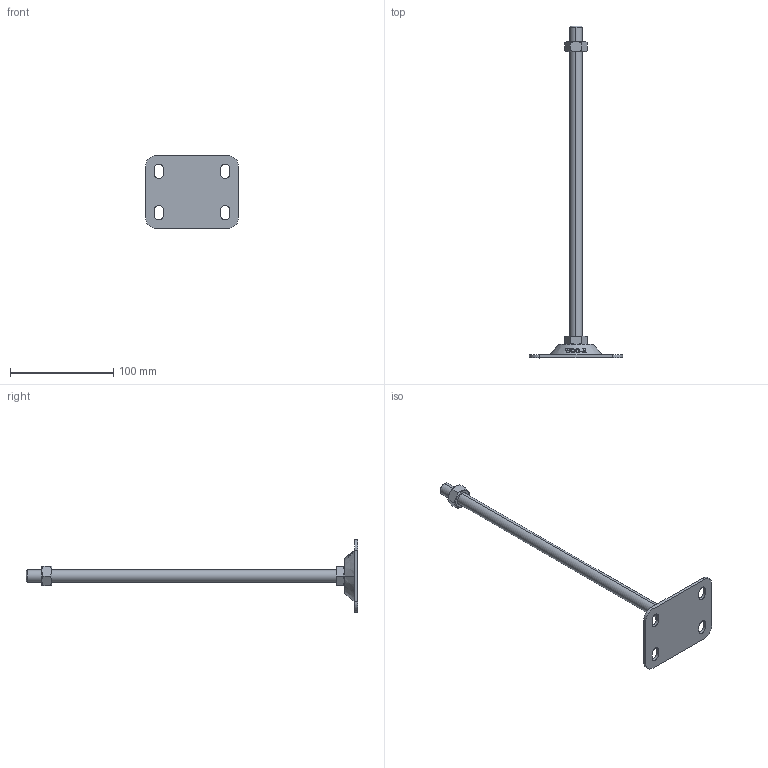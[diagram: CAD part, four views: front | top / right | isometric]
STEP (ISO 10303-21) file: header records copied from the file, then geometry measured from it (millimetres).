
FILE_DESCRIPTION (( 'STEP AP214' ), '1' );
FILE_NAME ('FABL7090-M12-300.step', '2021-03-28T23:51:11', ( '' ), ( '' ), 'SwSTEP 2.0', 'SolidWorks 2019', '' );
FILE_SCHEMA (( 'AUTOMOTIVE_DESIGN' ));
Length unit declared in the file: millimetre
Products named in the file (2): FABL7090-M12-300
Bounding box: 90 x 321 x 70 mm (x, y, z)
Volume: 69663.3 mm3; surface area: 26907.4 mm2
Topology: 2 solids, 2 shells, 142 faces, 369 edges, 242 vertices
Faces by surface type: plane 58, cylinder 44, cone 22, bspline 18
Entity records: 5925 total; most frequent: CARTESIAN_POINT 2627, ORIENTED_EDGE 738, DIRECTION 553, EDGE_CURVE 369, VERTEX_POINT 242, AXIS2_PLACEMENT_3D 198, EDGE_LOOP 163, VECTOR 157
